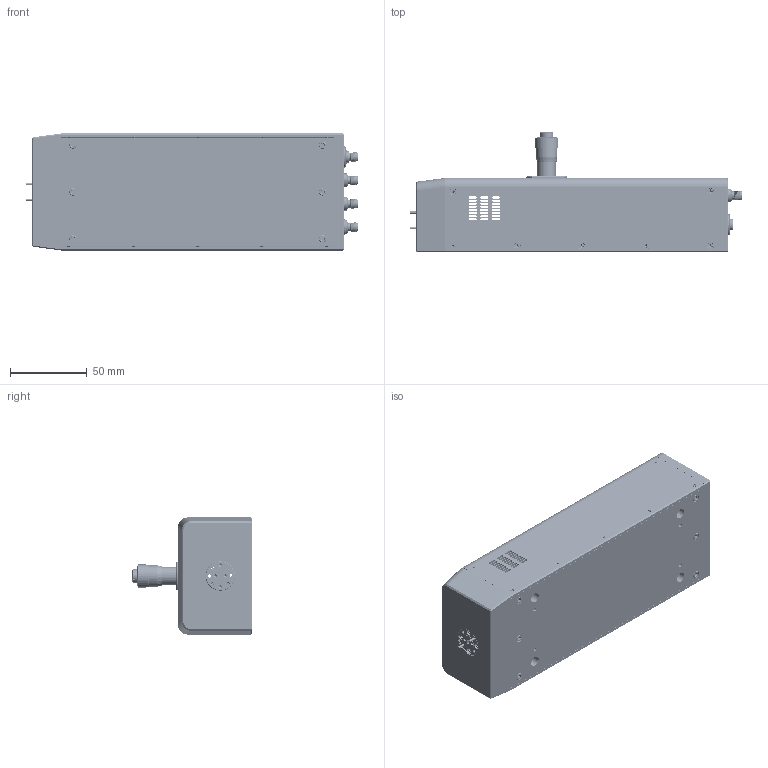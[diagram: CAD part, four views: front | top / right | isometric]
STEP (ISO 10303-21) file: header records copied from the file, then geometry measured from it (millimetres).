
FILE_DESCRIPTION (( 'STEP AP214' ), '1' );
FILE_NAME ('TO-SE-A-M-2 Mountable.STEP', '2025-07-09T22:31:41', ( '' ), ( '' ), 'SwSTEP 2.0', 'SolidWorks 2021', '' );
FILE_SCHEMA (( 'AUTOMOTIVE_DESIGN' ));
Length unit declared in the file: inch
Products named in the file (1): TO-SE-A-M-2 Mountable
Bounding box: 216.16 x 78.32 x 76.2 mm (x, y, z)
Volume: 206689.4 mm3; surface area: 140251.7 mm2
Topology: 90 solids, 90 shells, 4949 faces, 13242 edges, 8493 vertices
Faces by surface type: cylinder 2628, plane 1174, cone 718, bspline 421, torus 8
Entity records: 338513 total; most frequent: CARTESIAN_POINT 164573, ORIENTED_EDGE 26236, DIRECTION 18970, EDGE_CURVE 13118, VERTEX_POINT 8493, AXIS2_PLACEMENT_3D 7039, EDGE_LOOP 5419, UNCERTAINTY_MEASURE_WITH_UNIT 5001
